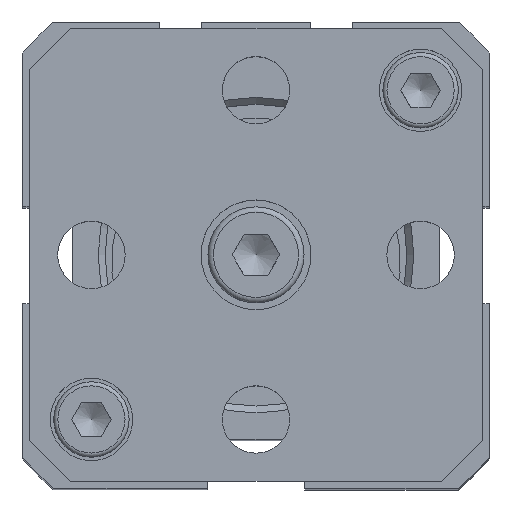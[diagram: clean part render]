
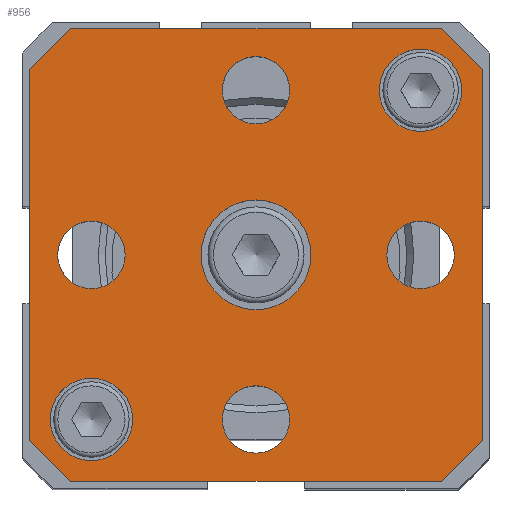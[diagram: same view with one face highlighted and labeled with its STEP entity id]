
A CAD part, top view. The second image highlights one B-rep face of the part: STEP entity #956.
In plain terms, the highlighted planar face has unit normal (0, 0, 1).
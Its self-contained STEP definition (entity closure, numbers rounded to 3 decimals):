
#273=CARTESIAN_POINT('',(9.24,13.683,83.));
#274=VERTEX_POINT('',#273);
#275=CARTESIAN_POINT('',(12.24,13.683,83.));
#276=DIRECTION('',(0.0,0.0,-1.0));
#277=DIRECTION('',(-1.0,0.0,0.0));
#278=AXIS2_PLACEMENT_3D('',#275,#276,#277);
#279=CIRCLE('',#278,3.);
#280=EDGE_CURVE('',#274,#274,#279,.T.);
#342=CARTESIAN_POINT('',(-14.76,-10.317,83.));
#343=VERTEX_POINT('',#342);
#344=CARTESIAN_POINT('',(-11.76,-10.317,83.));
#345=DIRECTION('',(0.0,0.0,-1.0));
#346=DIRECTION('',(-1.0,0.0,0.0));
#347=AXIS2_PLACEMENT_3D('',#344,#345,#346);
#348=CIRCLE('',#347,3.);
#349=EDGE_CURVE('',#343,#343,#348,.T.);
#383=CARTESIAN_POINT('',(-14.218,1.683,83.));
#384=VERTEX_POINT('',#383);
#385=CARTESIAN_POINT('',(-11.76,1.683,83.));
#386=DIRECTION('',(0.0,0.0,-1.0));
#387=DIRECTION('',(-1.0,0.0,0.0));
#388=AXIS2_PLACEMENT_3D('',#385,#386,#387);
#389=CIRCLE('',#388,2.459);
#390=EDGE_CURVE('',#384,#384,#389,.T.);
#432=CARTESIAN_POINT('',(-2.218,13.683,83.));
#433=VERTEX_POINT('',#432);
#434=CARTESIAN_POINT('',(0.24,13.683,83.));
#435=DIRECTION('',(0.0,0.0,-1.0));
#436=DIRECTION('',(-1.0,0.0,0.0));
#437=AXIS2_PLACEMENT_3D('',#434,#435,#436);
#438=CIRCLE('',#437,2.459);
#439=EDGE_CURVE('',#433,#433,#438,.T.);
#481=CARTESIAN_POINT('',(9.782,1.683,83.));
#482=VERTEX_POINT('',#481);
#483=CARTESIAN_POINT('',(12.24,1.683,83.));
#484=DIRECTION('',(0.0,0.0,-1.0));
#485=DIRECTION('',(-1.0,0.0,0.0));
#486=AXIS2_PLACEMENT_3D('',#483,#484,#485);
#487=CIRCLE('',#486,2.459);
#488=EDGE_CURVE('',#482,#482,#487,.T.);
#530=CARTESIAN_POINT('',(-2.218,-10.317,83.));
#531=VERTEX_POINT('',#530);
#532=CARTESIAN_POINT('',(0.24,-10.317,83.));
#533=DIRECTION('',(0.0,0.0,-1.0));
#534=DIRECTION('',(-1.0,0.0,0.0));
#535=AXIS2_PLACEMENT_3D('',#532,#533,#534);
#536=CIRCLE('',#535,2.459);
#537=EDGE_CURVE('',#531,#531,#536,.T.);
#579=CARTESIAN_POINT('',(-3.76,1.683,83.));
#580=VERTEX_POINT('',#579);
#581=CARTESIAN_POINT('',(0.24,1.683,83.));
#582=DIRECTION('',(0.0,0.0,-1.0));
#583=DIRECTION('',(-1.0,0.0,0.0));
#584=AXIS2_PLACEMENT_3D('',#581,#582,#583);
#585=CIRCLE('',#584,4.0);
#586=EDGE_CURVE('',#580,#580,#585,.T.);
#640=CARTESIAN_POINT('',(16.74,15.183,83.));
#641=VERTEX_POINT('',#640);
#642=CARTESIAN_POINT('',(16.74,-11.817,83.));
#643=VERTEX_POINT('',#642);
#644=CARTESIAN_POINT('',(16.74,15.183,83.));
#645=DIRECTION('',(0.0,-1.0,0.0));
#646=VECTOR('',#645,27.);
#647=LINE('',#644,#646);
#648=EDGE_CURVE('',#641,#643,#647,.T.);
#680=CARTESIAN_POINT('',(13.74,-14.817,83.));
#681=VERTEX_POINT('',#680);
#682=CARTESIAN_POINT('',(16.74,-11.817,83.));
#683=DIRECTION('',(-0.707,-0.707,0.0));
#684=VECTOR('',#683,4.243);
#685=LINE('',#682,#684);
#686=EDGE_CURVE('',#643,#681,#685,.T.);
#711=CARTESIAN_POINT('',(-13.26,-14.817,83.));
#712=VERTEX_POINT('',#711);
#713=CARTESIAN_POINT('',(13.74,-14.817,83.));
#714=DIRECTION('',(-1.0,0.0,0.0));
#715=VECTOR('',#714,27.);
#716=LINE('',#713,#715);
#717=EDGE_CURVE('',#681,#712,#716,.T.);
#742=CARTESIAN_POINT('',(-16.26,-11.817,83.));
#743=VERTEX_POINT('',#742);
#744=CARTESIAN_POINT('',(-13.26,-14.817,83.));
#745=DIRECTION('',(-0.707,0.707,0.0));
#746=VECTOR('',#745,4.243);
#747=LINE('',#744,#746);
#748=EDGE_CURVE('',#712,#743,#747,.T.);
#773=CARTESIAN_POINT('',(-16.26,15.183,83.));
#774=VERTEX_POINT('',#773);
#775=CARTESIAN_POINT('',(-16.26,-11.817,83.));
#776=DIRECTION('',(0.0,1.0,0.0));
#777=VECTOR('',#776,27.);
#778=LINE('',#775,#777);
#779=EDGE_CURVE('',#743,#774,#778,.T.);
#804=CARTESIAN_POINT('',(-13.26,18.183,83.));
#805=VERTEX_POINT('',#804);
#806=CARTESIAN_POINT('',(-16.26,15.183,83.));
#807=DIRECTION('',(0.707,0.707,0.0));
#808=VECTOR('',#807,4.243);
#809=LINE('',#806,#808);
#810=EDGE_CURVE('',#774,#805,#809,.T.);
#835=CARTESIAN_POINT('',(13.74,18.183,83.));
#836=VERTEX_POINT('',#835);
#837=CARTESIAN_POINT('',(-13.26,18.183,83.));
#838=DIRECTION('',(1.0,0.0,0.0));
#839=VECTOR('',#838,27.);
#840=LINE('',#837,#839);
#841=EDGE_CURVE('',#805,#836,#840,.T.);
#866=CARTESIAN_POINT('',(13.74,18.183,83.));
#867=DIRECTION('',(0.707,-0.707,0.0));
#868=VECTOR('',#867,4.243);
#869=LINE('',#866,#868);
#870=EDGE_CURVE('',#836,#641,#869,.T.);
#920=CARTESIAN_POINT('',(0.24,1.683,83.));
#921=DIRECTION('',(0.0,0.0,1.0));
#922=DIRECTION('',(1.0,0.0,0.0));
#923=AXIS2_PLACEMENT_3D('',#920,#921,#922);
#924=PLANE('',#923);
#925=ORIENTED_EDGE('',*,*,#648,.F.);
#926=ORIENTED_EDGE('',*,*,#870,.F.);
#927=ORIENTED_EDGE('',*,*,#841,.F.);
#928=ORIENTED_EDGE('',*,*,#810,.F.);
#929=ORIENTED_EDGE('',*,*,#779,.F.);
#930=ORIENTED_EDGE('',*,*,#748,.F.);
#931=ORIENTED_EDGE('',*,*,#717,.F.);
#932=ORIENTED_EDGE('',*,*,#686,.F.);
#933=EDGE_LOOP('',(#925,#926,#927,#928,#929,#930,#931,#932));
#934=FACE_OUTER_BOUND('',#933,.T.);
#935=ORIENTED_EDGE('',*,*,#280,.T.);
#936=EDGE_LOOP('',(#935));
#937=FACE_BOUND('',#936,.T.);
#938=ORIENTED_EDGE('',*,*,#349,.T.);
#939=EDGE_LOOP('',(#938));
#940=FACE_BOUND('',#939,.T.);
#941=ORIENTED_EDGE('',*,*,#390,.T.);
#942=EDGE_LOOP('',(#941));
#943=FACE_BOUND('',#942,.T.);
#944=ORIENTED_EDGE('',*,*,#439,.T.);
#945=EDGE_LOOP('',(#944));
#946=FACE_BOUND('',#945,.T.);
#947=ORIENTED_EDGE('',*,*,#488,.T.);
#948=EDGE_LOOP('',(#947));
#949=FACE_BOUND('',#948,.T.);
#950=ORIENTED_EDGE('',*,*,#537,.T.);
#951=EDGE_LOOP('',(#950));
#952=FACE_BOUND('',#951,.T.);
#953=ORIENTED_EDGE('',*,*,#586,.T.);
#954=EDGE_LOOP('',(#953));
#955=FACE_BOUND('',#954,.T.);
#956=ADVANCED_FACE('',(#934,#937,#940,#943,#946,#949,#952,#955),#924,.T.);
